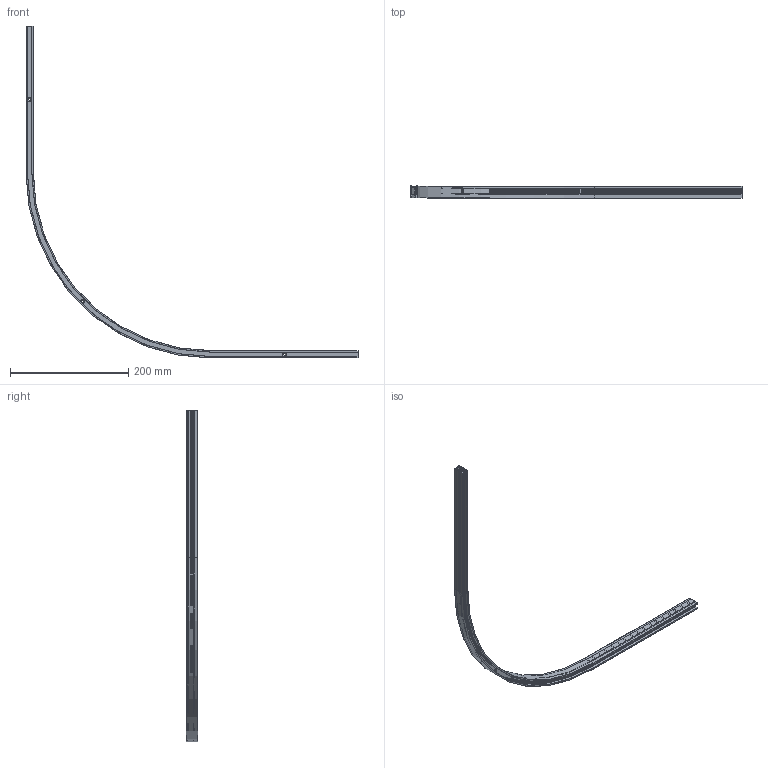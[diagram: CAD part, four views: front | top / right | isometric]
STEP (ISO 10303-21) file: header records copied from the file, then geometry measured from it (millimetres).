
FILE_DESCRIPTION (( 'STEP AP203' ), '1' );
FILE_NAME ('17.M07AC0690 Curved A.STEP', '2025-08-04T03:58:54', ( '' ), ( '' ), 'SwSTEP 2.0', 'SolidWorks 2020', '' );
FILE_SCHEMA (( 'CONFIG_CONTROL_DESIGN' ));
Length unit declared in the file: millimetre
Products named in the file (4): 寢耋1; 17.M07AC0690 Curved A; Curved A.stp; 寢耋2
Assembly tree (3 placements, depth 2):
  17.M07AC0690 Curved A
    Curved A.stp
    寢耋1
    寢耋2
Bounding box: 562.5 x 20 x 562.5 mm (x, y, z)
Volume: 106864.4 mm3; surface area: 175970 mm2
Topology: 7 solids, 7 shells, 257 faces, 589 edges, 346 vertices
Faces by surface type: plane 144, cylinder 60, cone 39, torus 14
Entity records: 7477 total; most frequent: DIRECTION 1271, CARTESIAN_POINT 1198, ORIENTED_EDGE 1178, EDGE_CURVE 589, VECTOR 433, LINE 433, AXIS2_PLACEMENT_3D 419, VERTEX_POINT 346
